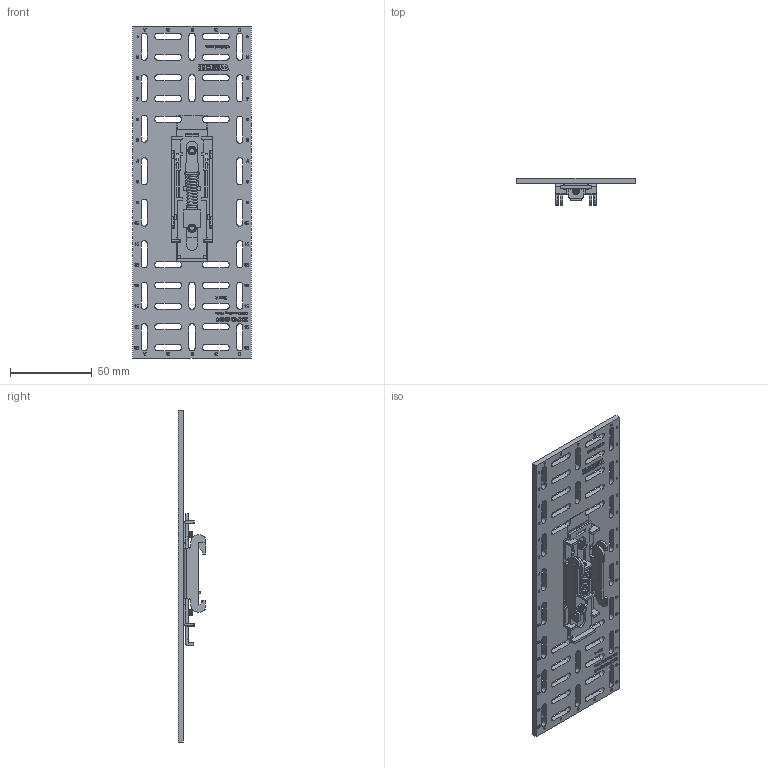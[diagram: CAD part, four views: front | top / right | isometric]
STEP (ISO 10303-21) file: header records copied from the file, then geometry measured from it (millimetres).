
FILE_DESCRIPTION (( 'STEP AP214' ), '1' );
FILE_NAME ('dinp02-2980c_rev_a.step', '2026-04-10T15:09:21', ( '' ), ( '' ), 'SwSTEP 2.0', 'SolidWorks 2018', '' );
FILE_SCHEMA (( 'AUTOMOTIVE_DESIGN' ));
Length unit declared in the file: inch
Products named in the file (4): DINM23_Clip_dinm23; dinp02-2980c_rev_a; dinp02-2980c_plate; M4 8mm FH_M4 8mm FH
Assembly tree (4 placements, depth 2):
  dinp02-2980c_rev_a
    dinp02-2980c_plate
    DINM23_Clip_dinm23
    M4 8mm FH_M4 8mm FH  x2
Bounding box: 72.39 x 16.98 x 203.2 mm (x, y, z)
Volume: 44452.2 mm3; surface area: 40752.9 mm2
Topology: 6 solids, 6 shells, 3479 faces, 9344 edges, 6165 vertices
Faces by surface type: plane 1982, bspline 1052, cylinder 369, cone 42, torus 34
Entity records: 204855 total; most frequent: CARTESIAN_POINT 82629, ORIENTED_EDGE 18274, DIRECTION 12405, EDGE_CURVE 9137, VECTOR 6303, LINE 6303, VERTEX_POINT 6035, EDGE_LOOP 3806
